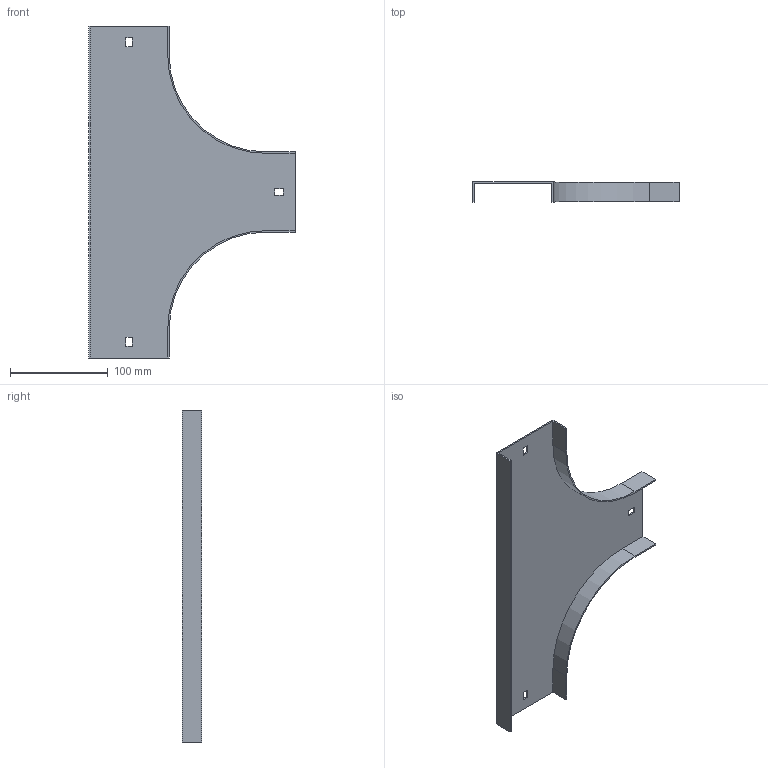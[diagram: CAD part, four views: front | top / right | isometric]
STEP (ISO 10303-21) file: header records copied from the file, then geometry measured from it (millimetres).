
FILE_DESCRIPTION (( 'STEP AP214' ), '1' );
FILE_NAME ('15G1R075.step', '2025-02-21T13:02:31', ( '' ), ( '' ), 'SwSTEP 2.0', 'SolidWorks 2023', '' );
FILE_SCHEMA (( 'AUTOMOTIVE_DESIGN' ));
Length unit declared in the file: millimetre
Products named in the file (1): 15G1R075
Bounding box: 210.5 x 20 x 339 mm (x, y, z)
Volume: 84875.4 mm3; surface area: 114994.9 mm2
Topology: 1 solids, 1 shells, 34 faces, 96 edges, 64 vertices
Faces by surface type: plane 30, cylinder 4
Entity records: 1123 total; most frequent: CARTESIAN_POINT 195, ORIENTED_EDGE 192, DIRECTION 174, EDGE_CURVE 96, LINE 88, VECTOR 88, VERTEX_POINT 64, AXIS2_PLACEMENT_3D 43
